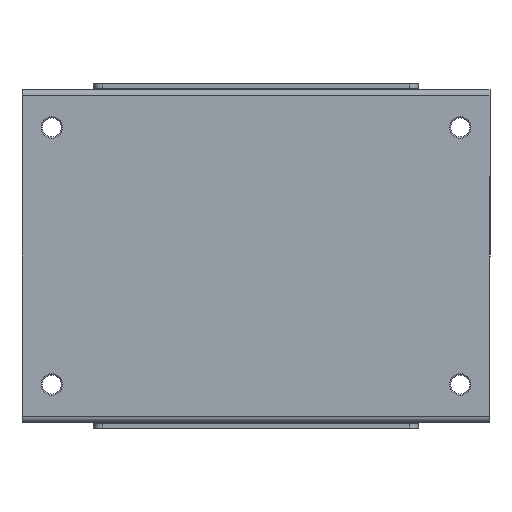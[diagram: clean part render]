
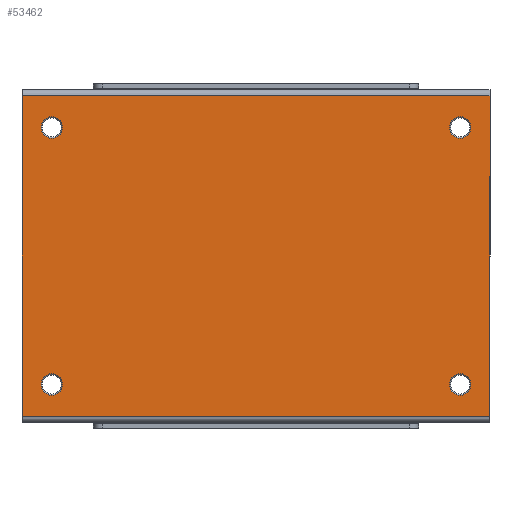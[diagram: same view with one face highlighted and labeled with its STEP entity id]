
A CAD part, front view. The second image highlights one B-rep face of the part: STEP entity #53462.
In plain terms, the highlighted planar face has unit normal (0, -1, 0).
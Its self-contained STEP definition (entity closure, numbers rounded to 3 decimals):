
#2021 = CIRCLE ( 'NONE', #85801, 1.8 ) ;
#2548 = DIRECTION ( 'NONE',  ( 1., 0., 0. ) ) ;
#4514 = VERTEX_POINT ( 'NONE', #90838 ) ;
#4832 = FACE_OUTER_BOUND ( 'NONE', #15113, .T. ) ;
#5325 = DIRECTION ( 'NONE',  ( -0.866, 0., 0.5 ) ) ;
#5924 = EDGE_LOOP ( 'NONE', ( #137211, #19532 ) ) ;
#8956 = ORIENTED_EDGE ( 'NONE', *, *, #80478, .T. ) ;
#9483 = VERTEX_POINT ( 'NONE', #85283 ) ;
#13287 = VERTEX_POINT ( 'NONE', #14818 ) ;
#13843 = CARTESIAN_POINT ( 'NONE',  ( 22.832, -13.089, 149.274 ) ) ;
#14818 = CARTESIAN_POINT ( 'NONE',  ( 22.832, -13.089, 106.094 ) ) ;
#15113 = EDGE_LOOP ( 'NONE', ( #39606, #109997, #138990, #84603 ) ) ;
#15890 = CARTESIAN_POINT ( 'NONE',  ( 25.95, -13.089, 104.294 ) ) ;
#18268 = CARTESIAN_POINT ( 'NONE',  ( -44.189, -13.089, 105.194 ) ) ;
#19532 = ORIENTED_EDGE ( 'NONE', *, *, #48990, .T. ) ;
#21470 = CARTESIAN_POINT ( 'NONE',  ( 24.391, -13.089, 148.374 ) ) ;
#24149 = CARTESIAN_POINT ( 'NONE',  ( -44.189, -13.089, 105.194 ) ) ;
#24748 = VECTOR ( 'NONE', #85278, 1000. ) ;
#25110 = VERTEX_POINT ( 'NONE', #15890 ) ;
#25685 = ORIENTED_EDGE ( 'NONE', *, *, #76143, .T. ) ;
#26252 = AXIS2_PLACEMENT_3D ( 'NONE', #24149, #136193, #91175 ) ;
#26383 = CARTESIAN_POINT ( 'NONE',  ( 25.95, -13.089, 147.474 ) ) ;
#27436 = CARTESIAN_POINT ( 'NONE',  ( 29.401, -13.089, 99.834 ) ) ;
#29726 = CARTESIAN_POINT ( 'NONE',  ( 24.391, -13.089, 105.194 ) ) ;
#33795 = EDGE_CURVE ( 'NONE', #71935, #4514, #118660, .T. ) ;
#36140 = EDGE_LOOP ( 'NONE', ( #42239, #25685 ) ) ;
#36235 = AXIS2_PLACEMENT_3D ( 'NONE', #92982, #105296, #134169 ) ;
#37392 = CARTESIAN_POINT ( 'NONE',  ( -44.189, -13.089, 148.374 ) ) ;
#37612 = FACE_BOUND ( 'NONE', #101638, .T. ) ;
#38224 = DIRECTION ( 'NONE',  ( 0., 0., 1. ) ) ;
#38465 = DIRECTION ( 'NONE',  ( -0.866, 0., 0.5 ) ) ;
#39606 = ORIENTED_EDGE ( 'NONE', *, *, #65660, .F. ) ;
#40211 = DIRECTION ( 'NONE',  ( 0., 1., 0. ) ) ;
#41847 = CIRCLE ( 'NONE', #137214, 1.8 ) ;
#42239 = ORIENTED_EDGE ( 'NONE', *, *, #129443, .T. ) ;
#44011 = DIRECTION ( 'NONE',  ( 0., 0., 1. ) ) ;
#45028 = CARTESIAN_POINT ( 'NONE',  ( 24.391, -13.089, 148.374 ) ) ;
#47319 = CIRCLE ( 'NONE', #52001, 1.8 ) ;
#47388 = CARTESIAN_POINT ( 'NONE',  ( -45.748, -13.089, 149.274 ) ) ;
#48510 = FACE_BOUND ( 'NONE', #112525, .T. ) ;
#48990 = EDGE_CURVE ( 'NONE', #134392, #96162, #41847, .T. ) ;
#50551 = AXIS2_PLACEMENT_3D ( 'NONE', #66839, #113309, #135094 ) ;
#52001 = AXIS2_PLACEMENT_3D ( 'NONE', #45028, #135246, #80801 ) ;
#52412 = CARTESIAN_POINT ( 'NONE',  ( -49.199, -13.089, 153.734 ) ) ;
#52970 = DIRECTION ( 'NONE',  ( 0., 1., 0. ) ) ;
#53437 = VERTEX_POINT ( 'NONE', #27436 ) ;
#53462 = ADVANCED_FACE ( 'NONE', ( #4832, #70452, #48510, #37612, #138745 ), #60934, .F. ) ;
#54535 = VERTEX_POINT ( 'NONE', #65519 ) ;
#55244 = AXIS2_PLACEMENT_3D ( 'NONE', #29726, #52970, #38465 ) ;
#55571 = EDGE_CURVE ( 'NONE', #65245, #9483, #97117, .T. ) ;
#55834 = EDGE_CURVE ( 'NONE', #53437, #71935, #89180, .T. ) ;
#57520 = CIRCLE ( 'NONE', #104075, 1.8 ) ;
#60323 = VECTOR ( 'NONE', #38224, 1000. ) ;
#60934 = PLANE ( 'NONE',  #36235 ) ;
#61993 = DIRECTION ( 'NONE',  ( 0., 1., 0. ) ) ;
#64753 = VERTEX_POINT ( 'NONE', #65527 ) ;
#65066 = EDGE_CURVE ( 'NONE', #9483, #65245, #115889, .T. ) ;
#65245 = VERTEX_POINT ( 'NONE', #47388 ) ;
#65519 = CARTESIAN_POINT ( 'NONE',  ( -45.748, -13.089, 106.094 ) ) ;
#65527 = CARTESIAN_POINT ( 'NONE',  ( -49.199, -13.089, 99.834 ) ) ;
#65660 = EDGE_CURVE ( 'NONE', #64753, #4514, #137900, .T. ) ;
#65946 = DIRECTION ( 'NONE',  ( -0.866, 0., 0.5 ) ) ;
#66839 = CARTESIAN_POINT ( 'NONE',  ( -44.189, -13.089, 148.374 ) ) ;
#69041 = EDGE_CURVE ( 'NONE', #96162, #134392, #47319, .T. ) ;
#70452 = FACE_BOUND ( 'NONE', #36140, .T. ) ;
#70514 = CIRCLE ( 'NONE', #26252, 1.8 ) ;
#70773 = VERTEX_POINT ( 'NONE', #78261 ) ;
#71935 = VERTEX_POINT ( 'NONE', #137772 ) ;
#72511 = CARTESIAN_POINT ( 'NONE',  ( -49.199, -13.089, 154.734 ) ) ;
#76143 = EDGE_CURVE ( 'NONE', #54535, #70773, #70514, .T. ) ;
#76214 = DIRECTION ( 'NONE',  ( 0., 1., 0. ) ) ;
#78261 = CARTESIAN_POINT ( 'NONE',  ( -42.63, -13.089, 104.294 ) ) ;
#80051 = ORIENTED_EDGE ( 'NONE', *, *, #55571, .T. ) ;
#80478 = EDGE_CURVE ( 'NONE', #25110, #13287, #2021, .T. ) ;
#80801 = DIRECTION ( 'NONE',  ( -0.866, 0., 0.5 ) ) ;
#84603 = ORIENTED_EDGE ( 'NONE', *, *, #33795, .T. ) ;
#85278 = DIRECTION ( 'NONE',  ( -1., 0., 0. ) ) ;
#85283 = CARTESIAN_POINT ( 'NONE',  ( -42.63, -13.089, 147.474 ) ) ;
#85801 = AXIS2_PLACEMENT_3D ( 'NONE', #118950, #97830, #142216 ) ;
#86030 = DIRECTION ( 'NONE',  ( -0.866, 0., 0.5 ) ) ;
#89180 = LINE ( 'NONE', #100056, #120384 ) ;
#90838 = CARTESIAN_POINT ( 'NONE',  ( -49.199, -13.089, 153.734 ) ) ;
#91175 = DIRECTION ( 'NONE',  ( -0.866, 0., 0.5 ) ) ;
#92982 = CARTESIAN_POINT ( 'NONE',  ( -49.199, -13.089, 154.734 ) ) ;
#96162 = VERTEX_POINT ( 'NONE', #26383 ) ;
#97117 = CIRCLE ( 'NONE', #50551, 1.8 ) ;
#97830 = DIRECTION ( 'NONE',  ( 0., 1., 0. ) ) ;
#100056 = CARTESIAN_POINT ( 'NONE',  ( 29.401, -13.089, 154.734 ) ) ;
#101099 = EDGE_CURVE ( 'NONE', #64753, #53437, #103730, .T. ) ;
#101638 = EDGE_LOOP ( 'NONE', ( #8956, #137447 ) ) ;
#103730 = LINE ( 'NONE', #124830, #108248 ) ;
#104075 = AXIS2_PLACEMENT_3D ( 'NONE', #18268, #61993, #86030 ) ;
#105296 = DIRECTION ( 'NONE',  ( 0., 1., 0. ) ) ;
#108248 = VECTOR ( 'NONE', #2548, 1000. ) ;
#109997 = ORIENTED_EDGE ( 'NONE', *, *, #101099, .T. ) ;
#112525 = EDGE_LOOP ( 'NONE', ( #117725, #80051 ) ) ;
#112859 = EDGE_CURVE ( 'NONE', #13287, #25110, #117985, .T. ) ;
#113309 = DIRECTION ( 'NONE',  ( 0., 1., 0. ) ) ;
#115889 = CIRCLE ( 'NONE', #122878, 1.8 ) ;
#117725 = ORIENTED_EDGE ( 'NONE', *, *, #65066, .T. ) ;
#117985 = CIRCLE ( 'NONE', #55244, 1.8 ) ;
#118660 = LINE ( 'NONE', #52412, #24748 ) ;
#118950 = CARTESIAN_POINT ( 'NONE',  ( 24.391, -13.089, 105.194 ) ) ;
#120384 = VECTOR ( 'NONE', #44011, 1000. ) ;
#122878 = AXIS2_PLACEMENT_3D ( 'NONE', #37392, #40211, #5325 ) ;
#124830 = CARTESIAN_POINT ( 'NONE',  ( -49.199, -13.089, 99.834 ) ) ;
#129443 = EDGE_CURVE ( 'NONE', #70773, #54535, #57520, .T. ) ;
#134169 = DIRECTION ( 'NONE',  ( -1., 0., 0. ) ) ;
#134392 = VERTEX_POINT ( 'NONE', #13843 ) ;
#135094 = DIRECTION ( 'NONE',  ( -0.866, 0., 0.5 ) ) ;
#135246 = DIRECTION ( 'NONE',  ( 0., 1., 0. ) ) ;
#136193 = DIRECTION ( 'NONE',  ( 0., 1., 0. ) ) ;
#137211 = ORIENTED_EDGE ( 'NONE', *, *, #69041, .T. ) ;
#137214 = AXIS2_PLACEMENT_3D ( 'NONE', #21470, #76214, #65946 ) ;
#137447 = ORIENTED_EDGE ( 'NONE', *, *, #112859, .T. ) ;
#137772 = CARTESIAN_POINT ( 'NONE',  ( 29.401, -13.089, 153.734 ) ) ;
#137900 = LINE ( 'NONE', #72511, #60323 ) ;
#138745 = FACE_BOUND ( 'NONE', #5924, .T. ) ;
#138990 = ORIENTED_EDGE ( 'NONE', *, *, #55834, .T. ) ;
#142216 = DIRECTION ( 'NONE',  ( -0.866, 0., 0.5 ) ) ;
